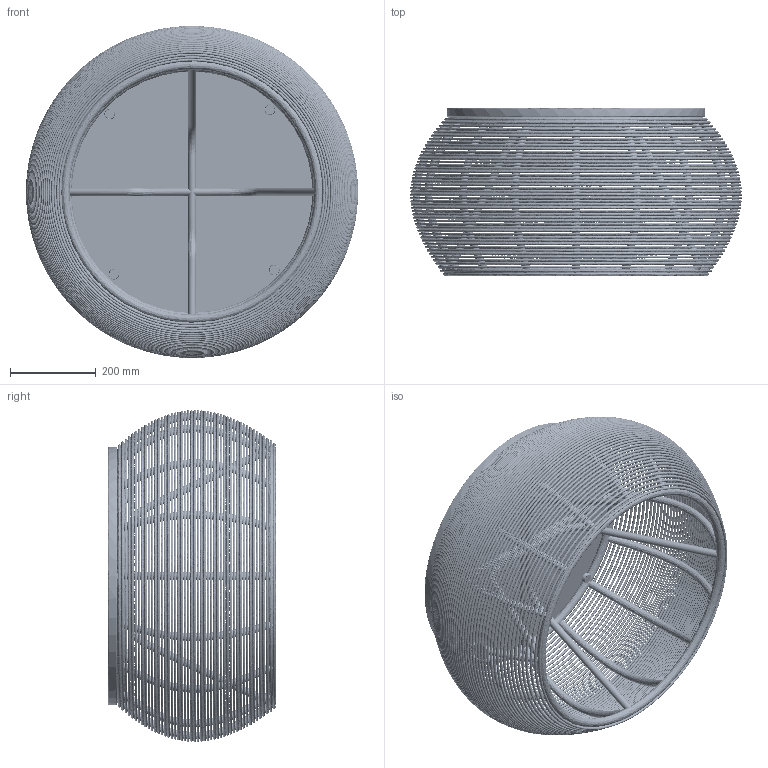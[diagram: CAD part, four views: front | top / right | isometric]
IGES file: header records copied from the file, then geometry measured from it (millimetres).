
Global section: file name: VincentSheppard_Ivocoffeetable77; native system: unknown; preprocessor: unknown; author: ict@vincentsheppard.com; organization: unknown; date: 20180509.101929; units: millimetre
Bounding box: 772.2 x 390 x 772.2 mm (x, y, z)
Volume: 12497102.4 mm3; surface area: 3413529 mm2
Topology: 77 solids, 77 shells, 149 faces, 237 edges, 142 vertices
Faces by surface type: bspline 149
